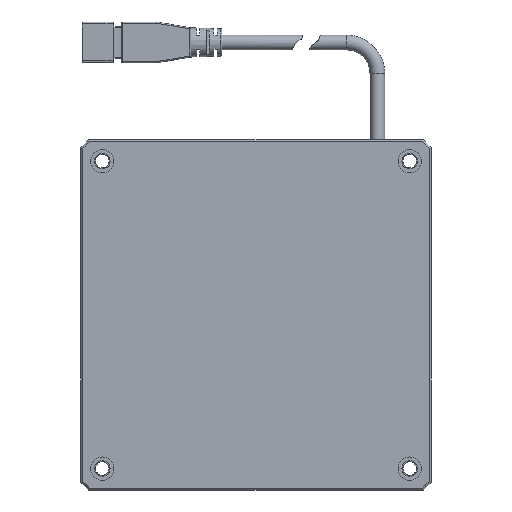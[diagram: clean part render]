
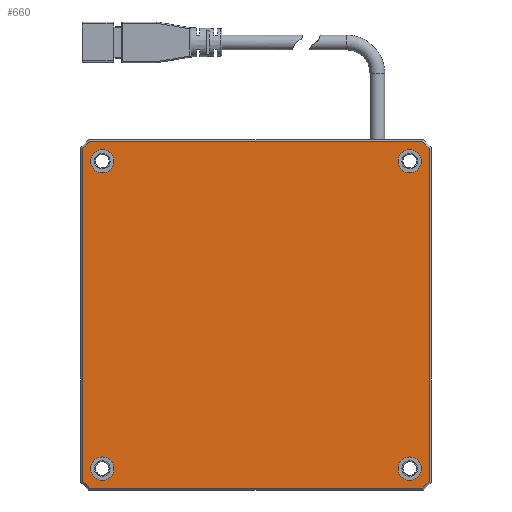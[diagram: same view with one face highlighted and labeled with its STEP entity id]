
A CAD part, front view. The second image highlights one B-rep face of the part: STEP entity #660.
In plain terms, the highlighted planar face has unit normal (0, -1, 0).
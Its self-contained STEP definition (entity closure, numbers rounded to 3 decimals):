
#1=DIRECTION('',(-0.707,0.,-0.707));
#2=VECTOR('',#1,2.414);
#3=CARTESIAN_POINT('',(-42.793,0.,44.5));
#4=LINE('',#3,#2);
#5=DIRECTION('',(-1.,0.,0.));
#6=VECTOR('',#5,85.586);
#7=CARTESIAN_POINT('',(42.793,0.,44.5));
#8=LINE('',#7,#6);
#9=DIRECTION('',(-0.707,0.,0.707));
#10=VECTOR('',#9,2.414);
#11=CARTESIAN_POINT('',(44.5,0.,42.793));
#12=LINE('',#11,#10);
#13=DIRECTION('',(0.,0.,1.));
#14=VECTOR('',#13,85.586);
#15=CARTESIAN_POINT('',(44.5,0.,-42.793));
#16=LINE('',#15,#14);
#17=DIRECTION('',(0.707,0.,0.707));
#18=VECTOR('',#17,2.414);
#19=CARTESIAN_POINT('',(42.793,0.,-44.5));
#20=LINE('',#19,#18);
#21=DIRECTION('',(1.,0.,0.));
#22=VECTOR('',#21,85.586);
#23=CARTESIAN_POINT('',(-42.793,0.,-44.5));
#24=LINE('',#23,#22);
#25=DIRECTION('',(0.707,0.,-0.707));
#26=VECTOR('',#25,2.414);
#27=CARTESIAN_POINT('',(-44.5,0.,-42.793));
#28=LINE('',#27,#26);
#29=DIRECTION('',(0.,0.,-1.));
#30=VECTOR('',#29,85.586);
#31=CARTESIAN_POINT('',(-44.5,0.,42.793));
#32=LINE('',#31,#30);
#33=CARTESIAN_POINT('',(-39.5,0.,-39.5));
#34=DIRECTION('',(0.,1.,0.));
#35=DIRECTION('',(-1.,0.,0.));
#36=AXIS2_PLACEMENT_3D('',#33,#34,#35);
#38=CARTESIAN_POINT('',(-39.5,0.,-39.5));
#39=DIRECTION('',(0.,1.,0.));
#40=DIRECTION('',(1.,0.,0.));
#41=AXIS2_PLACEMENT_3D('',#38,#39,#40);
#43=CARTESIAN_POINT('',(-39.5,0.,39.5));
#44=DIRECTION('',(0.,1.,0.));
#45=DIRECTION('',(0.,0.,1.));
#46=AXIS2_PLACEMENT_3D('',#43,#44,#45);
#48=CARTESIAN_POINT('',(-39.5,0.,39.5));
#49=DIRECTION('',(0.,1.,0.));
#50=DIRECTION('',(0.,0.,-1.));
#51=AXIS2_PLACEMENT_3D('',#48,#49,#50);
#53=CARTESIAN_POINT('',(39.5,0.,39.5));
#54=DIRECTION('',(0.,1.,0.));
#55=DIRECTION('',(1.,0.,0.));
#56=AXIS2_PLACEMENT_3D('',#53,#54,#55);
#58=CARTESIAN_POINT('',(39.5,0.,39.5));
#59=DIRECTION('',(0.,1.,0.));
#60=DIRECTION('',(-1.,0.,0.));
#61=AXIS2_PLACEMENT_3D('',#58,#59,#60);
#63=CARTESIAN_POINT('',(39.5,0.,-39.5));
#64=DIRECTION('',(0.,1.,0.));
#65=DIRECTION('',(0.,0.,-1.));
#66=AXIS2_PLACEMENT_3D('',#63,#64,#65);
#68=CARTESIAN_POINT('',(39.5,0.,-39.5));
#69=DIRECTION('',(0.,1.,0.));
#70=DIRECTION('',(0.,0.,1.));
#71=AXIS2_PLACEMENT_3D('',#68,#69,#70);
#477=CARTESIAN_POINT('',(-44.5,0.,42.793));
#479=VERTEX_POINT('',#477);
#483=CARTESIAN_POINT('',(-42.793,0.,44.5));
#484=VERTEX_POINT('',#483);
#487=CARTESIAN_POINT('',(42.793,0.,44.5));
#488=VERTEX_POINT('',#487);
#489=CARTESIAN_POINT('',(44.5,0.,42.793));
#490=VERTEX_POINT('',#489);
#495=CARTESIAN_POINT('',(44.5,0.,-42.793));
#496=VERTEX_POINT('',#495);
#497=CARTESIAN_POINT('',(42.793,0.,-44.5));
#498=VERTEX_POINT('',#497);
#503=CARTESIAN_POINT('',(-42.793,0.,-44.5));
#504=VERTEX_POINT('',#503);
#506=CARTESIAN_POINT('',(-44.5,0.,-42.793));
#508=VERTEX_POINT('',#506);
#545=CARTESIAN_POINT('',(-42.5,0.,-39.5));
#546=CARTESIAN_POINT('',(-36.5,0.,-39.5));
#547=VERTEX_POINT('',#545);
#548=VERTEX_POINT('',#546);
#561=CARTESIAN_POINT('',(-39.5,0.,42.5));
#562=VERTEX_POINT('',#561);
#563=CARTESIAN_POINT('',(-39.5,0.,36.5));
#564=VERTEX_POINT('',#563);
#577=CARTESIAN_POINT('',(42.5,0.,39.5));
#578=VERTEX_POINT('',#577);
#579=CARTESIAN_POINT('',(36.5,0.,39.5));
#580=VERTEX_POINT('',#579);
#593=CARTESIAN_POINT('',(39.5,0.,-42.5));
#594=VERTEX_POINT('',#593);
#595=CARTESIAN_POINT('',(39.5,0.,-36.5));
#596=VERTEX_POINT('',#595);
#613=CARTESIAN_POINT('',(0.,0.,0.));
#614=DIRECTION('',(0.,1.,0.));
#615=DIRECTION('',(1.,0.,0.));
#616=AXIS2_PLACEMENT_3D('',#613,#614,#615);
#617=PLANE('',#616);
#619=ORIENTED_EDGE('',*,*,#618,.F.);
#621=ORIENTED_EDGE('',*,*,#620,.F.);
#623=ORIENTED_EDGE('',*,*,#622,.F.);
#625=ORIENTED_EDGE('',*,*,#624,.F.);
#627=ORIENTED_EDGE('',*,*,#626,.F.);
#629=ORIENTED_EDGE('',*,*,#628,.F.);
#631=ORIENTED_EDGE('',*,*,#630,.F.);
#633=ORIENTED_EDGE('',*,*,#632,.F.);
#634=EDGE_LOOP('',(#619,#621,#623,#625,#627,#629,#631,#633));
#635=FACE_OUTER_BOUND('',#634,.F.);
#637=ORIENTED_EDGE('',*,*,#636,.F.);
#639=ORIENTED_EDGE('',*,*,#638,.F.);
#640=EDGE_LOOP('',(#637,#639));
#641=FACE_BOUND('',#640,.F.);
#643=ORIENTED_EDGE('',*,*,#642,.F.);
#645=ORIENTED_EDGE('',*,*,#644,.F.);
#646=EDGE_LOOP('',(#643,#645));
#647=FACE_BOUND('',#646,.F.);
#649=ORIENTED_EDGE('',*,*,#648,.F.);
#651=ORIENTED_EDGE('',*,*,#650,.F.);
#652=EDGE_LOOP('',(#649,#651));
#653=FACE_BOUND('',#652,.F.);
#655=ORIENTED_EDGE('',*,*,#654,.F.);
#657=ORIENTED_EDGE('',*,*,#656,.F.);
#658=EDGE_LOOP('',(#655,#657));
#659=FACE_BOUND('',#658,.F.);
#660=ADVANCED_FACE('',(#635,#641,#647,#653,#659),#617,.F.);
#37=CIRCLE('',#36,3.);
#42=CIRCLE('',#41,3.);
#47=CIRCLE('',#46,3.);
#52=CIRCLE('',#51,3.);
#57=CIRCLE('',#56,3.);
#62=CIRCLE('',#61,3.);
#67=CIRCLE('',#66,3.);
#72=CIRCLE('',#71,3.);
#618=EDGE_CURVE('',#484,#479,#4,.T.);
#620=EDGE_CURVE('',#488,#484,#8,.T.);
#622=EDGE_CURVE('',#490,#488,#12,.T.);
#624=EDGE_CURVE('',#496,#490,#16,.T.);
#626=EDGE_CURVE('',#498,#496,#20,.T.);
#628=EDGE_CURVE('',#504,#498,#24,.T.);
#630=EDGE_CURVE('',#508,#504,#28,.T.);
#632=EDGE_CURVE('',#479,#508,#32,.T.);
#636=EDGE_CURVE('',#547,#548,#37,.T.);
#638=EDGE_CURVE('',#548,#547,#42,.T.);
#642=EDGE_CURVE('',#562,#564,#47,.T.);
#644=EDGE_CURVE('',#564,#562,#52,.T.);
#648=EDGE_CURVE('',#578,#580,#57,.T.);
#650=EDGE_CURVE('',#580,#578,#62,.T.);
#654=EDGE_CURVE('',#594,#596,#67,.T.);
#656=EDGE_CURVE('',#596,#594,#72,.T.);
